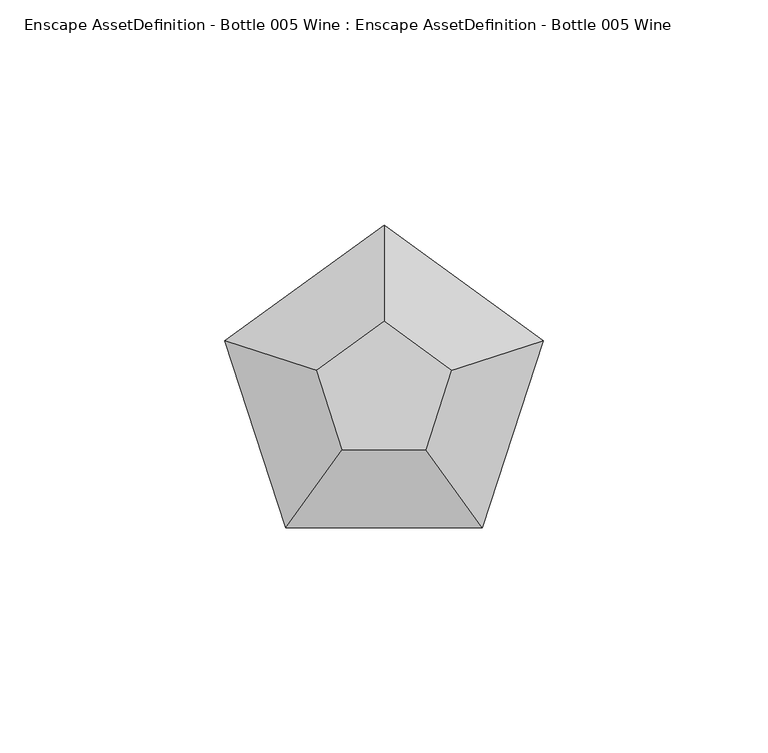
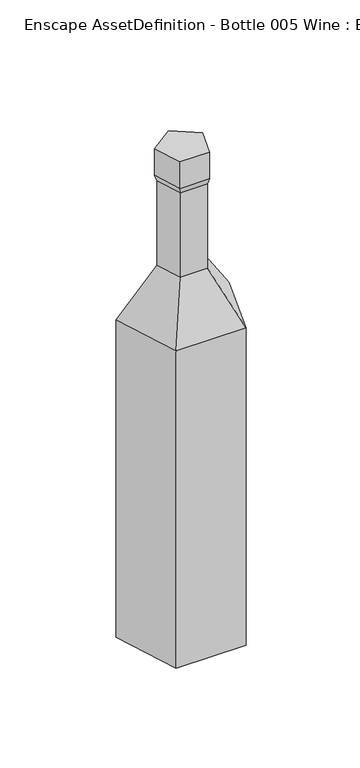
"""IFC4 building model written with IfcOpenShell, lengths in millimetres: geographic element geometry, Enscape AssetDefinition - Bottle 005 Wine : Enscape AssetDefinition - Bottle 005 Wine."""

from ifc_helpers import new_model, si_unit, origin, place, context, project, spatial, triangles, source, transform, mapped, element, save


def enscape_assetdefinition_bottle_005_wine_enscape_f84a86c7(model_context):
    return source(origin(), model_context, "Body", "Tessellation", [
        triangles([(35.3535561, 11.4870691, 209.8119208), (21.8497019, -30.07353, 209.8119208), (21.8497019, -30.07353, 0.0), (-21.8496928, -30.07353, 0.0), (35.3535561, 11.4870691, 0.0), (0.0, 37.1729286, 0.0), (-35.3535561, 11.4870691, 209.8119208), (0.0, 37.1729286, 209.8119208), (-13.7287564, 4.4607407, 242.4931927), (-35.3535561, 11.4870691, 0.0), (0.0, 0.0, 0.0), (-21.8496928, -30.07353, 209.8119208), (0.0, 14.4352699, 242.4931927), (-8.4848433, -11.6783819, 242.4931927), (8.4848433, -11.6783819, 242.4931927), (13.7287564, 4.460751, 298.3552807), (13.7287564, 4.460751, 242.4931927), (-8.4848433, -11.6783819, 298.3552807), (8.4848433, -11.6783819, 298.3552807), (14.9802028, 4.8673616, 301.9816582), (-14.9802028, 4.8673616, 301.9816582), (0.0, 15.7511234, 301.9816582), (0.0, 14.4352699, 298.3552807), (-9.2582722, -12.7429234, 319.5954995), (-14.9802028, 4.8673616, 319.5954995), (0.0, 0.0, 319.5954995), (0.0, 15.7511234, 319.5954995), (14.9802028, 4.8673616, 319.5954995), (9.2582722, -12.7429234, 319.5954995), (-9.2582722, -12.7429234, 301.9816582), (-13.7287564, 4.4607407, 298.3552807), (9.2582722, -12.7429234, 301.9816582)], [[32, 30, 18], [29, 30, 32], [30, 31, 18], [29, 24, 30], [29, 26, 24], [28, 29, 32], [28, 26, 29], [27, 26, 28], [24, 26, 25], [25, 26, 27], [24, 25, 21], [30, 21, 31], [24, 21, 30], [25, 27, 22], [25, 22, 21], [27, 28, 20], [27, 20, 22], [28, 32, 20], [23, 22, 20], [21, 22, 23], [31, 23, 13], [21, 23, 31], [23, 17, 13], [23, 16, 17], [23, 20, 16], [20, 32, 19], [20, 19, 16], [32, 18, 19], [16, 19, 15], [17, 15, 2], [16, 15, 17], [15, 12, 2], [19, 18, 14], [15, 14, 12], [19, 14, 15], [18, 31, 9], [31, 13, 9], [18, 9, 14], [14, 9, 7], [14, 7, 12], [12, 7, 10], [2, 12, 4], [12, 10, 4], [10, 11, 4], [6, 11, 10], [7, 6, 10], [9, 13, 8], [7, 8, 6], [9, 8, 7], [5, 11, 6], [8, 5, 6], [4, 11, 3], [3, 11, 5], [2, 4, 3], [13, 17, 1], [8, 1, 5], [1, 2, 3], [13, 1, 8], [17, 2, 1], [1, 3, 5]]),
    ])


if __name__ == "__main__":
    model = new_model("IFC4")
    model_context = context("Model", 3, world=origin())
    ifc_project = project(units=[si_unit("LENGTHUNIT", "METRE", prefix="MILLI")], contexts=[model_context])
    site = spatial("IfcSite", under=ifc_project)
    building = spatial("IfcBuilding", under=site)
    placement = place(None, origin())
    enscape_assetdefinition_bottle_005_wine_enscape_shape = enscape_assetdefinition_bottle_005_wine_enscape_f84a86c7(model_context)
    element("IfcGeographicElement", 1, ObjectType="Enscape AssetDefinition - Bottle 005 Wine : Enscape AssetDefinition - Bottle 005 Wine", at=placement, inside=building, context=model_context, shape_type="MappedRepresentation", body=[
        mapped(enscape_assetdefinition_bottle_005_wine_enscape_shape, transform((0.0, 0.0, 0.0), x_axis=(1.0, 0.0, 0.0), y_axis=(0.0, 1.0, 0.0), z_axis=(0.0, 0.0, 1.0))),
    ])
    save(model, "model.ifc")
